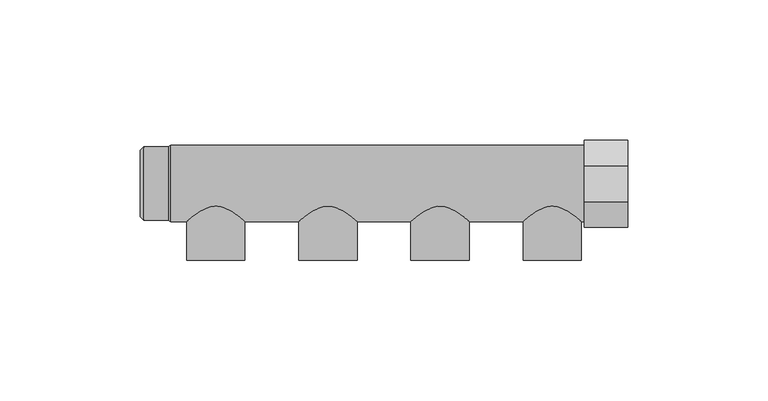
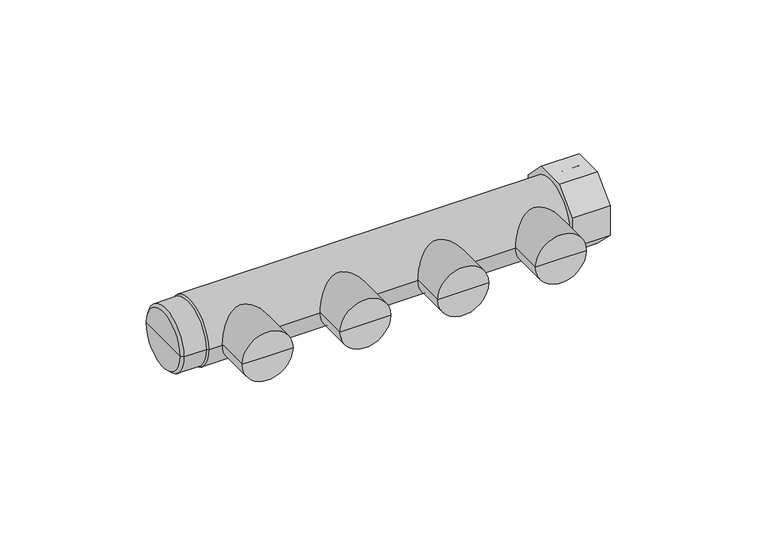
"""IFC4 building model written with IfcOpenShell, lengths in millimetres: pipe fitting geometry, Astra - Distribuidor com Saída Rosca ½ - COL : Astra - Distribuidor com Saída Rosca ½ - COL."""

from ifc_helpers import new_model, si_unit, frame, origin, place, context, project, spatial, polyline, circle_curve, source, transform, mapped, element, save
from ifc_brep_helpers import plane_surface, cylinder_surface, revolved_surface, advanced_brep


def pipe_fitting_5259ab72(model_context):
    return source(origin(), model_context, "Body", "AdvancedBrep", [
        advanced_brep(
        [(60.0, 0.0, 0.0), (70.4, 0.0, 0.0), (49.6, 0.0, 0.0), (49.6, -27.4, 0.0), (70.4, -27.4, 0.0), (60.0, -27.4, 0.0)],
        [
            (0, 1),
            (1, 2, circle_curve(frame((60.0, 0.0, 0.0), z_axis=(0.0, 1.0, 0.0), x_axis=(1.0, 0.0, 0.0)), 10.4)),
            (2, 0),
            (2, 1, circle_curve(frame((60.0, 0.0, 0.0), z_axis=(0.0, 1.0, 0.0), x_axis=(1.0, 0.0, 0.0)), 10.4)),
            (3, 4, circle_curve(frame((60.0, -27.4, 0.0), z_axis=(0.0, -1.0, 0.0), x_axis=(1.0, 0.0, 0.0)), 10.4)),
            (4, 5),
            (5, 3),
            (4, 3, circle_curve(frame((60.0, -27.4, 0.0), z_axis=(0.0, -1.0, 0.0), x_axis=(1.0, 0.0, 0.0)), 10.4)),
            (1, 4),
            (3, 2),
        ],
        [
            plane_surface(frame((60.0, 0.0, 0.0), z_axis=(0.0, 1.0, 0.0), x_axis=(1.0, 0.0, 0.0))),
            plane_surface(frame((60.0, -27.4, 0.0), z_axis=(0.0, -1.0, 0.0), x_axis=(1.0, 0.0, 0.0))),
            cylinder_surface(frame((60.0, 0.0, 0.0), z_axis=(0.0, 1.0, 0.0), x_axis=(1.0, 0.0, 0.0)), 10.4),
        ],
        [
            (0, [[1, 2, 3]]),
            (0, [[-3, 4, -1]]),
            (1, [[5, 6, 7]]),
            (1, [[8, -7, -6]]),
            (2, [[-2, 9, -5, 10]]),
            (2, [[-4, -10, -8, -9]]),
        ],
    ),
        advanced_brep(
        [(20.0, 0.0, 0.0), (30.4, 0.0, 0.0), (9.6, 0.0, 0.0), (9.6, -27.4, 0.0), (30.4, -27.4, 0.0), (20.0, -27.4, 0.0)],
        [
            (0, 1),
            (1, 2, circle_curve(frame((20.0, 0.0, 0.0), z_axis=(0.0, 1.0, 0.0), x_axis=(1.0, 0.0, 0.0)), 10.4)),
            (2, 0),
            (2, 1, circle_curve(frame((20.0, 0.0, 0.0), z_axis=(0.0, 1.0, 0.0), x_axis=(1.0, 0.0, 0.0)), 10.4)),
            (3, 4, circle_curve(frame((20.0, -27.4, 0.0), z_axis=(0.0, -1.0, 0.0), x_axis=(1.0, 0.0, 0.0)), 10.4)),
            (4, 5),
            (5, 3),
            (4, 3, circle_curve(frame((20.0, -27.4, 0.0), z_axis=(0.0, -1.0, 0.0), x_axis=(1.0, 0.0, 0.0)), 10.4)),
            (1, 4),
            (3, 2),
        ],
        [
            plane_surface(frame((20.0, 0.0, 0.0), z_axis=(0.0, 1.0, 0.0), x_axis=(1.0, 0.0, 0.0))),
            plane_surface(frame((20.0, -27.4, 0.0), z_axis=(0.0, -1.0, 0.0), x_axis=(1.0, 0.0, 0.0))),
            cylinder_surface(frame((20.0, 0.0, 0.0), z_axis=(0.0, 1.0, 0.0), x_axis=(1.0, 0.0, 0.0)), 10.4),
        ],
        [
            (0, [[1, 2, 3]]),
            (0, [[-3, 4, -1]]),
            (1, [[5, 6, 7]]),
            (1, [[8, -7, -6]]),
            (2, [[-2, 9, -5, 10]]),
            (2, [[-4, -10, -8, -9]]),
        ],
    ),
        advanced_brep(
        [(-20.0, 0.0, 0.0), (-9.6, 0.0, 0.0), (-30.4, 0.0, 0.0), (-30.4, -27.4, 0.0), (-9.6, -27.4, 0.0), (-20.0, -27.4, 0.0)],
        [
            (0, 1),
            (1, 2, circle_curve(frame((-20.0, 0.0, 0.0), z_axis=(0.0, 1.0, 0.0), x_axis=(1.0, 0.0, 0.0)), 10.4)),
            (2, 0),
            (2, 1, circle_curve(frame((-20.0, 0.0, 0.0), z_axis=(0.0, 1.0, 0.0), x_axis=(1.0, 0.0, 0.0)), 10.4)),
            (3, 4, circle_curve(frame((-20.0, -27.4, 0.0), z_axis=(0.0, -1.0, 0.0), x_axis=(1.0, 0.0, 0.0)), 10.4)),
            (4, 5),
            (5, 3),
            (4, 3, circle_curve(frame((-20.0, -27.4, 0.0), z_axis=(0.0, -1.0, 0.0), x_axis=(1.0, 0.0, 0.0)), 10.4)),
            (1, 4),
            (3, 2),
        ],
        [
            plane_surface(frame((-20.0, 0.0, 0.0), z_axis=(0.0, 1.0, 0.0), x_axis=(1.0, 0.0, 0.0))),
            plane_surface(frame((-20.0, -27.4, 0.0), z_axis=(0.0, -1.0, 0.0), x_axis=(1.0, 0.0, 0.0))),
            cylinder_surface(frame((-20.0, 0.0, 0.0), z_axis=(0.0, 1.0, 0.0), x_axis=(1.0, 0.0, 0.0)), 10.4),
        ],
        [
            (0, [[1, 2, 3]]),
            (0, [[-3, 4, -1]]),
            (1, [[5, 6, 7]]),
            (1, [[8, -7, -6]]),
            (2, [[-2, 9, -5, 10]]),
            (2, [[-4, -10, -8, -9]]),
        ],
    ),
        advanced_brep(
        [(-60.0, 0.0, 0.0), (-49.6, 0.0, 0.0), (-70.4, 0.0, 0.0), (-70.4, -27.4, 0.0), (-49.6, -27.4, 0.0), (-60.0, -27.4, 0.0)],
        [
            (0, 1),
            (1, 2, circle_curve(frame((-60.0, 0.0, 0.0), z_axis=(0.0, 1.0, 0.0), x_axis=(1.0, 0.0, 0.0)), 10.4)),
            (2, 0),
            (2, 1, circle_curve(frame((-60.0, 0.0, 0.0), z_axis=(0.0, 1.0, 0.0), x_axis=(1.0, 0.0, 0.0)), 10.4)),
            (3, 4, circle_curve(frame((-60.0, -27.4, 0.0), z_axis=(0.0, -1.0, 0.0), x_axis=(1.0, 0.0, 0.0)), 10.4)),
            (4, 5),
            (5, 3),
            (4, 3, circle_curve(frame((-60.0, -27.4, 0.0), z_axis=(0.0, -1.0, 0.0), x_axis=(1.0, 0.0, 0.0)), 10.4)),
            (1, 4),
            (3, 2),
        ],
        [
            plane_surface(frame((-60.0, 0.0, 0.0), z_axis=(0.0, 1.0, 0.0), x_axis=(1.0, 0.0, 0.0))),
            plane_surface(frame((-60.0, -27.4, 0.0), z_axis=(0.0, -1.0, 0.0), x_axis=(1.0, 0.0, 0.0))),
            cylinder_surface(frame((-60.0, 0.0, 0.0), z_axis=(0.0, 1.0, 0.0), x_axis=(1.0, 0.0, 0.0)), 10.4),
        ],
        [
            (0, [[1, 2, 3]]),
            (0, [[-3, 4, -1]]),
            (1, [[5, 6, 7]]),
            (1, [[8, -7, -6]]),
            (2, [[-2, 9, -5, 10]]),
            (2, [[-4, -10, -8, -9]]),
        ],
    ),
        advanced_brep(
        [(-76.0, 13.6, 0.0), (71.5, 13.6, 0.0), (71.5, -13.6, 0.0), (-76.0, -13.6, 0.0), (-76.0, -9.6166522, -9.6166522), (-76.0, 0.0, -13.6), (-76.0, 9.6166522, -9.6166522), (-76.0, 9.6166522, 9.6166522), (-76.0, 0.0, 13.6), (-76.0, -9.6166522, 9.6166522), (-87.0, 0.0, 0.0), (-87.0, 11.9, 0.0), (-87.0, -11.9, 0.0), (-85.8, -13.1, 0.0), (-85.8, 13.1, 0.0), (-76.9473684, 13.1, 0.0), (-76.9473684, -13.1, 0.0), (87.0, -15.5, 6.4203102), (87.0, -15.5, -6.4203102), (87.0, -6.4203102, -15.5), (87.0, 6.4203102, -15.5), (87.0, 15.5, -6.4203102), (87.0, 15.5, 6.4203102), (87.0, 6.4203102, 15.5), (87.0, -6.4203102, 15.5), (87.0, 12.1, 0.0), (87.0, -12.1, 0.0), (71.5, -15.5, 6.4203102), (71.5, -6.4203102, 15.5), (71.5, 6.4203102, 15.5), (71.5, 15.5, 6.4203102), (71.5, 15.5, -6.4203102), (71.5, 6.4203102, -15.5), (71.5, -6.4203102, -15.5), (71.5, -15.5, -6.4203102), (77.0, 0.0, 0.0), (77.0, -12.1, 0.0), (77.0, 12.1, 0.0)],
        [
            (0, 1),
            (1, 2, circle_curve(frame((71.5, 0.0, 0.0), z_axis=(-1.0, 0.0, 0.0), x_axis=(0.0, 1.0, 0.0)), 13.6)),
            (2, 3),
            (3, 4, circle_curve(frame((-76.0, 0.0, 0.0), z_axis=(1.0, 0.0, 0.0), x_axis=(0.0, 1.0, 0.0)), 13.6)),
            (4, 5, circle_curve(frame((-76.0, 0.0, 0.0), z_axis=(1.0, 0.0, 0.0), x_axis=(0.0, 1.0, 0.0)), 13.6)),
            (5, 6, circle_curve(frame((-76.0, 0.0, 0.0), z_axis=(1.0, 0.0, 0.0), x_axis=(0.0, 1.0, 0.0)), 13.6)),
            (6, 0, circle_curve(frame((-76.0, 0.0, 0.0), z_axis=(1.0, 0.0, 0.0), x_axis=(0.0, 1.0, 0.0)), 13.6)),
            (0, 7, circle_curve(frame((-76.0, 0.0, 0.0), z_axis=(1.0, 0.0, 0.0), x_axis=(0.0, 1.0, 0.0)), 13.6)),
            (7, 8, circle_curve(frame((-76.0, 0.0, 0.0), z_axis=(1.0, 0.0, 0.0), x_axis=(0.0, 1.0, 0.0)), 13.6)),
            (8, 9, circle_curve(frame((-76.0, 0.0, 0.0), z_axis=(1.0, 0.0, 0.0), x_axis=(0.0, 1.0, 0.0)), 13.6)),
            (9, 3, circle_curve(frame((-76.0, 0.0, 0.0), z_axis=(1.0, 0.0, 0.0), x_axis=(0.0, 1.0, 0.0)), 13.6)),
            (2, 1, circle_curve(frame((71.5, 0.0, 0.0), z_axis=(-1.0, 0.0, 0.0), x_axis=(0.0, 1.0, 0.0)), 13.6)),
            (10, 11),
            (11, 12, circle_curve(frame((-87.0, 0.0, 0.0), z_axis=(-1.0, 0.0, 0.0), x_axis=(0.0, 1.0, 0.0)), 11.9)),
            (12, 10),
            (12, 11, circle_curve(frame((-87.0, 0.0, 0.0), z_axis=(-1.0, 0.0, 0.0), x_axis=(0.0, 1.0, 0.0)), 11.9)),
            (13, 14, circle_curve(frame((-85.8, 0.0, 0.0), z_axis=(1.0, 0.0, 0.0), x_axis=(0.0, 1.0, 0.0)), 13.1)),
            (14, 15),
            (15, 16, circle_curve(frame((-76.9473684, 0.0, 0.0), z_axis=(-1.0, 0.0, 0.0), x_axis=(0.0, 1.0, 0.0)), 13.1)),
            (16, 13),
            (14, 13, circle_curve(frame((-85.8, 0.0, 0.0), z_axis=(1.0, 0.0, 0.0), x_axis=(0.0, 1.0, 0.0)), 13.1)),
            (16, 15, circle_curve(frame((-76.9473684, 0.0, 0.0), z_axis=(-1.0, 0.0, 0.0), x_axis=(0.0, 1.0, 0.0)), 13.1)),
            (17, 18),
            (18, 19),
            (19, 20),
            (20, 21),
            (21, 22),
            (22, 23),
            (23, 24),
            (24, 17),
            (25, 26, circle_curve(frame((87.0, 0.0, 0.0), z_axis=(-1.0, 0.0, 0.0), x_axis=(0.0, 1.0, 0.0)), 12.1)),
            (26, 25, circle_curve(frame((87.0, 0.0, 0.0), z_axis=(-1.0, 0.0, 0.0), x_axis=(0.0, 1.0, 0.0)), 12.1)),
            (27, 28),
            (28, 29),
            (29, 30),
            (30, 31),
            (31, 32),
            (32, 33),
            (33, 34),
            (34, 27),
            (17, 27),
            (34, 18),
            (33, 19),
            (32, 20),
            (31, 21),
            (30, 22),
            (29, 23),
            (28, 24),
            (35, 36),
            (36, 37, circle_curve(frame((77.0, 0.0, 0.0), z_axis=(1.0, 0.0, 0.0), x_axis=(0.0, 1.0, 0.0)), 12.1)),
            (37, 35),
            (37, 36, circle_curve(frame((77.0, 0.0, 0.0), z_axis=(1.0, 0.0, 0.0), x_axis=(0.0, 1.0, 0.0)), 12.1)),
            (36, 26),
            (25, 37),
            (15, 0),
            (3, 16),
            (11, 14),
            (13, 12),
        ],
        [
            cylinder_surface(frame((-76.0, 0.0, 0.0), z_axis=(-1.0, 0.0, 0.0), x_axis=(0.0, 1.0, 0.0)), 13.6),
            plane_surface(frame((-87.0, 0.0, 0.0), z_axis=(-1.0, 0.0, 0.0), x_axis=(0.0, 1.0, 0.0))),
            cylinder_surface(frame((-87.0, 0.0, 0.0), z_axis=(-1.0, 0.0, 0.0), x_axis=(0.0, 1.0, 0.0)), 13.1),
            plane_surface(frame((87.0, -15.5, 6.4203102), z_axis=(1.0, 0.0, 0.0), x_axis=(0.0, 0.0, -1.0))),
            plane_surface(frame((71.5, -15.5, 6.4203102), z_axis=(-1.0, 0.0, 0.0), x_axis=(0.0, 0.0, 1.0))),
            plane_surface(frame((87.0, -15.5, 6.4203102), z_axis=(0.0, -1.0, 0.0), x_axis=(-1.0, 0.0, 0.0))),
            plane_surface(frame((87.0, -15.5, -6.4203102), z_axis=(0.0, -0.707106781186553, -0.7071067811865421), x_axis=(-1.0, 0.0, 0.0))),
            plane_surface(frame((87.0, -6.4203102, -15.5), z_axis=(0.0, 0.0, -1.0), x_axis=(-1.0, 0.0, 0.0))),
            plane_surface(frame((87.0, 6.4203102, -15.5), z_axis=(0.0, 0.7071067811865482, -0.7071067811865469), x_axis=(-1.0, 0.0, 0.0))),
            plane_surface(frame((87.0, 15.5, -6.4203102), z_axis=(0.0, 1.0, 0.0), x_axis=(-1.0, 0.0, 0.0))),
            plane_surface(frame((87.0, 15.5, 6.4203102), z_axis=(0.0, 0.7071067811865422, 0.7071067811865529), x_axis=(-1.0, 0.0, 0.0))),
            plane_surface(frame((87.0, 6.4203102, 15.5), z_axis=(0.0, 0.0, 1.0), x_axis=(-1.0, 0.0, 0.0))),
            plane_surface(frame((87.0, -6.4203102, 15.5), z_axis=(0.0, -0.7071067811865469, 0.7071067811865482), x_axis=(-1.0, 0.0, 0.0))),
            plane_surface(frame((77.0, 0.0, 0.0), z_axis=(1.0, 0.0, 0.0), x_axis=(0.0, 1.0, 0.0))),
            revolved_surface(polyline([(77.0, 12.1, 0.0), (87.0, 12.1, 0.0)]), (77.0, 0.0, 0.0), (-1.0, 0.0, 0.0)),
            revolved_surface(polyline([(-76.0, 13.6, 0.0), (-76.9473684, 13.1, 0.0)]), (-87.0, 0.0, 0.0), (-1.0, 0.0, 0.0)),
            revolved_surface(polyline([(-85.8, 13.1, 0.0), (-87.0, 11.9, 0.0)]), (-87.0, 0.0, 0.0), (-1.0, 0.0, 0.0)),
        ],
        [
            (0, [[1, 2, 3, 4, 5, 6, 7]]),
            (0, [[-1, 8, 9, 10, 11, -3, 12]]),
            (1, [[13, 14, 15]]),
            (1, [[-13, -15, 16]]),
            (2, [[17, 18, 19, 20]]),
            (2, [[-18, 21, -20, 22]]),
            (3, [[23, 24, 25, 26, 27, 28, 29, 30], [31, 32]]),
            (4, [[33, 34, 35, 36, 37, 38, 39, 40], [-2, -12]]),
            (5, [[-23, 41, -40, 42]]),
            (6, [[-24, -42, -39, 43]]),
            (7, [[-25, -43, -38, 44]]),
            (8, [[-26, -44, -37, 45]]),
            (9, [[-27, -45, -36, 46]]),
            (10, [[-28, -46, -35, 47]]),
            (11, [[-29, -47, -34, 48]]),
            (12, [[-30, -48, -33, -41]]),
            (13, [[49, 50, 51]]),
            (13, [[-49, -51, 52]]),
            (14, [[-50, 53, -31, 54]]),
            (14, [[-52, -54, -32, -53]]),
            (15, [[-19, 55, -7, -6, -5, -4, 56]]),
            (15, [[-22, -56, -11, -10, -9, -8, -55]]),
            (16, [[-14, 57, -17, 58]]),
            (16, [[-16, -58, -21, -57]]),
        ],
    ),
    ])


if __name__ == "__main__":
    model = new_model("IFC4")
    model_context = context("Model", 3, world=origin())
    ifc_project = project(units=[si_unit("LENGTHUNIT", "METRE", prefix="MILLI")], contexts=[model_context])
    site = spatial("IfcSite", under=ifc_project)
    building = spatial("IfcBuilding", under=site)
    placement = place(None, origin())
    pipe_fitting_shape = pipe_fitting_5259ab72(model_context)
    element("IfcPipeFitting", 1, ObjectType="Astra - Distribuidor com Saída Rosca ½ - COL : Astra - Distribuidor com Saída Rosca ½ - COL", at=placement, inside=building, context=model_context, shape_type="MappedRepresentation", body=[
        mapped(pipe_fitting_shape, transform((0.0, 0.0, 0.0), x_axis=(1.0, 0.0, 0.0), y_axis=(0.0, 1.0, 0.0), z_axis=(0.0, 0.0, 1.0))),
    ])
    save(model, "model.ifc")
